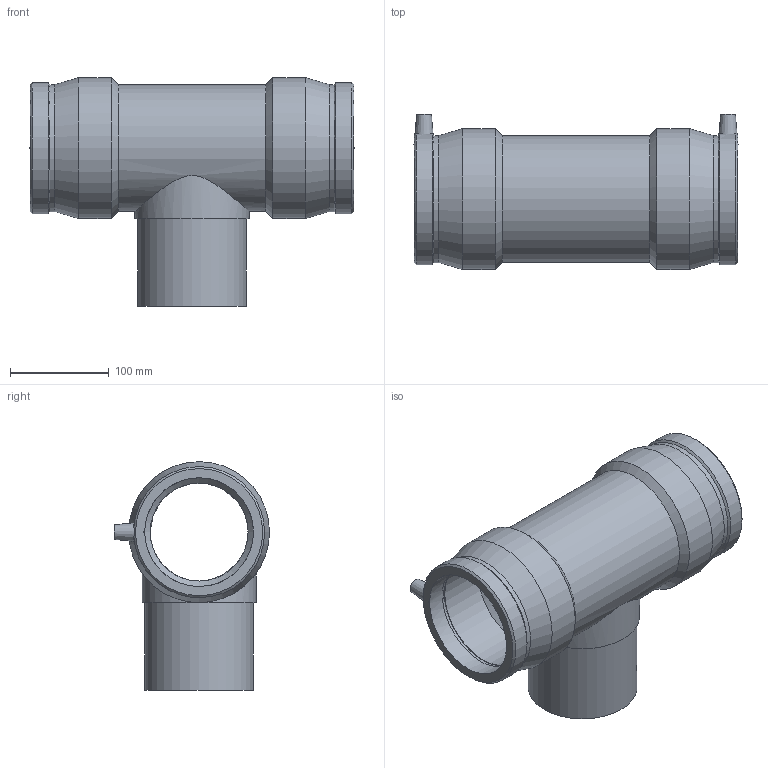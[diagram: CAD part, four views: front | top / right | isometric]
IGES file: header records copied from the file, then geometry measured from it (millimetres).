
Global section: file name: 5904B003040.ipt; native system: Autodesk Inventor 2019; preprocessor: unknown; author: KIM; date: 20210830.100949; units: inch
Bounding box: 327.83 x 156.84 x 231.27 mm (x, y, z)
Volume: 2071975.8 mm3; surface area: 318926.3 mm2
Topology: 1 solids, 1 shells, 49 faces, 111 edges, 72 vertices
Faces by surface type: cone 14, plane 12, revolution 12, cylinder 11
Full cylindrical faces by diameter (mm): 4 x2, 110 x1, 115.5 x1, 128.245 x1, 128.544 x2, 142.494 x2
